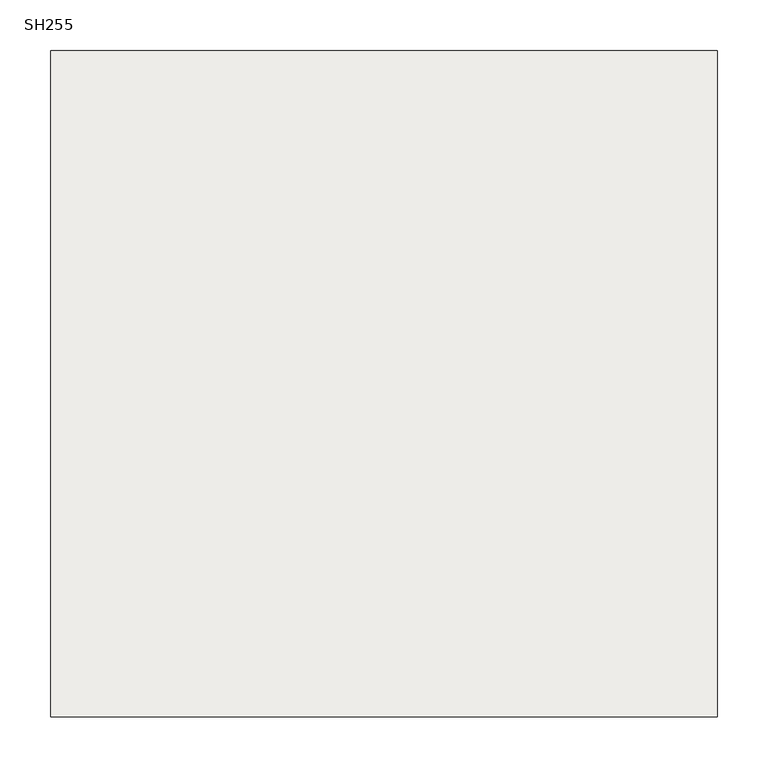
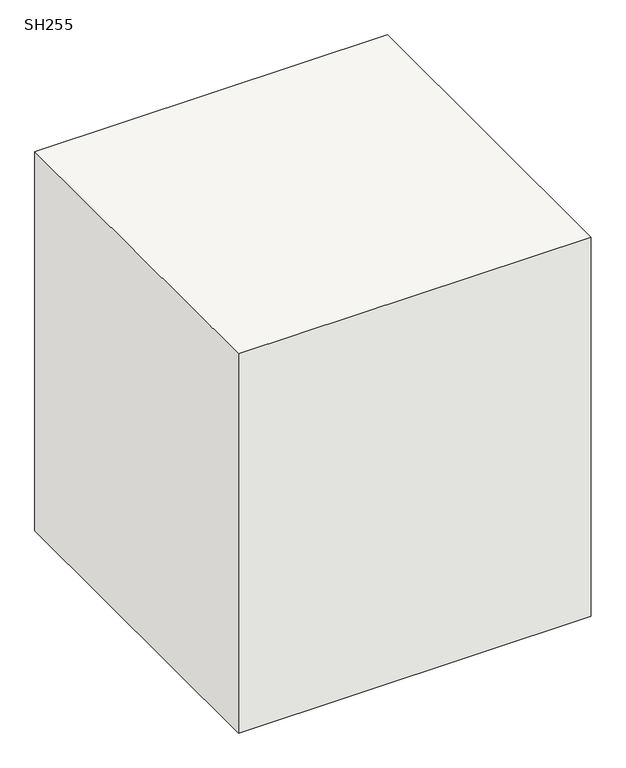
"""IFC4 building model written with IfcOpenShell, lengths in millimetres: slab geometry, 柱形_SH : SH255."""

from ifc_helpers import new_model, si_unit, frame, origin, place, context, project, spatial, polyline, outline, extrude, source, transform, mapped, element, save


def sh255_3842edd7(model_context):
    return source(origin(), model_context, "Body", "SweptSolid", [
        extrude(outline(polyline([(330.0, 330.0), (330.0, -330.0), (-330.0, -330.0), (-330.0, 330.0), (330.0, 330.0)])), frame((0.0, 0.0, -750.0), z_axis=(0.0, 0.0, 1.0), x_axis=(1.0, 0.0, 0.0)), (0.0, 0.0, 1.0), 750.0),
    ])


if __name__ == "__main__":
    model = new_model("IFC4")
    model_context = context("Model", 3, world=origin())
    ifc_project = project(units=[si_unit("LENGTHUNIT", "METRE", prefix="MILLI")], contexts=[model_context])
    site = spatial("IfcSite", under=ifc_project)
    building = spatial("IfcBuilding", under=site)
    placement = place(None, origin())
    sh255_shape = sh255_3842edd7(model_context)
    element("IfcSlab", 1, ObjectType="柱形_SH : SH255", at=placement, inside=building, context=model_context, shape_type="MappedRepresentation", body=[
        mapped(sh255_shape, transform((0.0, 0.0, 0.0), x_axis=(1.0, 0.0, 0.0), y_axis=(0.0, 1.0, 0.0), z_axis=(0.0, 0.0, 1.0))),
    ])
    save(model, "model.ifc")
